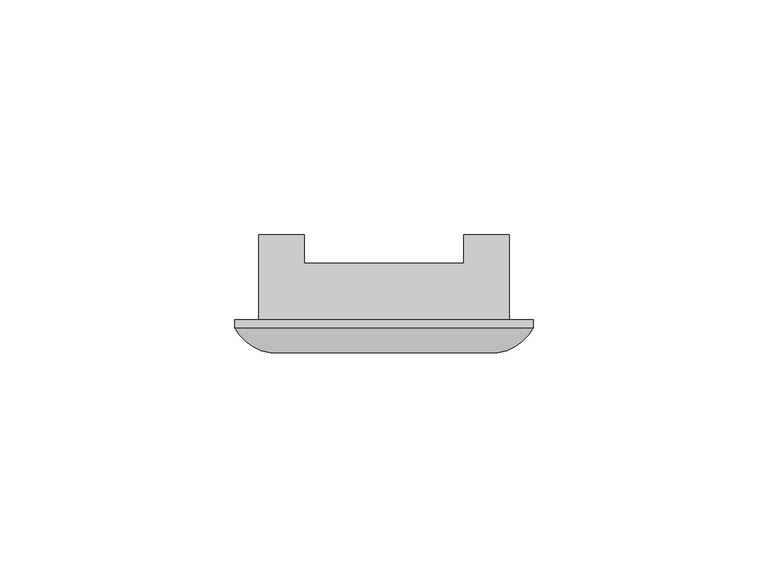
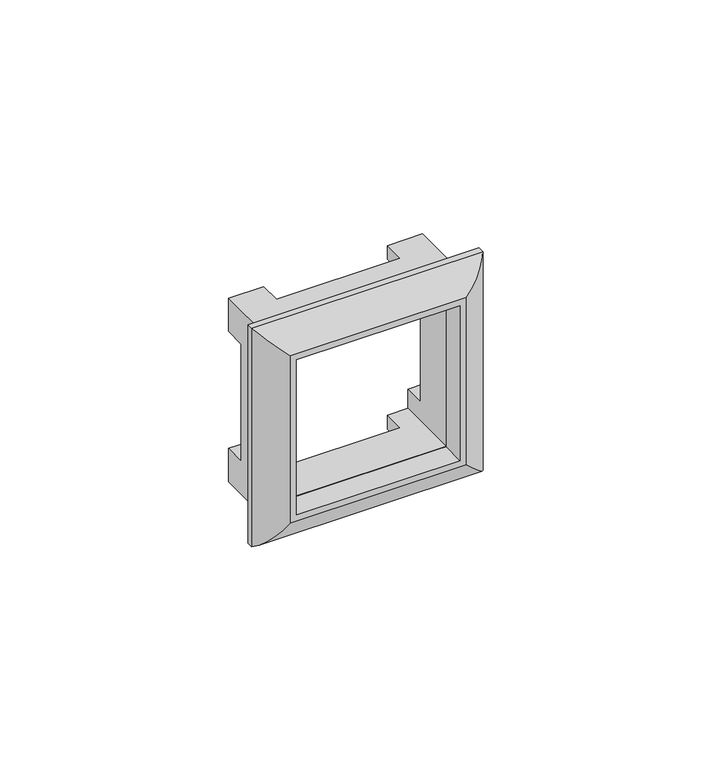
"""IFC4 building model written with IfcOpenShell, lengths in millimetres: proxy geometry."""

from ifc_helpers import new_model, si_unit, frame, origin, place, context, project, spatial, ellipse_curve, faceted_brep, source, transform, mapped, element, save
from ifc_brep_helpers import plane_surface, cylinder_surface, advanced_brep


def electrical_fixtures_6385b20a(model_context):
    return source(origin(), model_context, "Body", "SolidModel", [
        faceted_brep([(26.65, 18.1, -17.0), (26.65, 18.1, -26.65), (17.0, 18.1, -26.65), (17.0, 18.1, -22.65), (22.65, 18.1, -22.65), (22.65, 18.1, -17.0), (26.65, 18.1, 26.65), (26.65, 18.1, 17.0), (22.65, 18.1, 17.0), (22.65, 18.1, 22.65), (17.0, 18.1, 22.65), (17.0, 18.1, 26.65), (-26.65, 18.1, -26.65), (-26.65, 18.1, -17.0), (-22.65, 18.1, -17.0), (-22.65, 18.1, -22.65), (-17.0, 18.1, -22.65), (-17.0, 18.1, -26.65), (-26.65, 18.1, 17.0), (-26.65, 18.1, 26.65), (-17.0, 18.1, 26.65), (-17.0, 18.1, 22.65), (-22.65, 18.1, 22.65), (-22.65, 18.1, 17.0), (26.65, 0.0, -26.65), (26.65, 0.0, 26.65), (-26.65, 0.0, 26.65), (-26.65, 0.0, -26.65), (22.65, 0.0, -22.65), (-22.65, 0.0, -22.65), (-22.65, 0.0, 22.65), (22.65, 0.0, 22.65), (26.65, 12.0483806, -17.0), (26.65, 12.0483806, 17.0), (17.0, 12.0483806, 26.65), (-17.0, 12.0483806, 26.65), (-26.65, 12.0483806, 17.0), (-26.65, 12.0483806, -17.0), (-17.0, 12.0483806, -26.65), (17.0, 12.0483806, -26.65), (17.0, 12.0483806, -22.65), (-17.0, 12.0483806, -22.65), (-22.65, 12.0483806, -17.0), (-22.65, 12.0483806, 17.0), (-17.0, 12.0483806, 22.65), (17.0, 12.0483806, 22.65), (22.65, 12.0483806, 17.0), (22.65, 12.0483806, -17.0)], [[[0, 1, 2, 3, 4, 5]], [[6, 7, 8, 9, 10, 11]], [[12, 13, 14, 15, 16, 17]], [[18, 19, 20, 21, 22, 23]], [[24, 25, 26, 27], [28, 29, 30, 31]], [[25, 24, 1, 0, 32, 33, 7, 6]], [[26, 25, 6, 11, 34, 35, 20, 19]], [[27, 26, 19, 18, 36, 37, 13, 12]], [[24, 27, 12, 17, 38, 39, 2, 1]], [[29, 28, 4, 3, 40, 41, 16, 15]], [[30, 29, 15, 14, 42, 43, 23, 22]], [[31, 30, 22, 21, 44, 45, 10, 9]], [[28, 31, 9, 8, 46, 47, 5, 4]], [[37, 42, 14, 13]], [[47, 32, 0, 5]], [[43, 36, 18, 23]], [[33, 46, 8, 7]], [[42, 37, 36, 43]], [[32, 47, 46, 33]], [[41, 38, 17, 16]], [[35, 44, 21, 20]], [[39, 40, 3, 2]], [[45, 34, 11, 10]], [[40, 39, 38, 41]], [[34, 45, 44, 35]]]),
        advanced_brep(
        [(31.75, -1.7181284, -31.75), (31.75, 0.0, -31.75), (31.75, 0.0, 31.75), (31.75, -1.7181284, 31.75), (24.261743, -7.0, 24.261743), (24.261743, -7.0, -24.261743), (-31.75, 0.0, 31.75), (-31.75, -1.7181284, 31.75), (-24.261743, -7.0, 24.261743), (-31.75, 0.0, -31.75), (-31.75, -1.7181284, -31.75), (-24.261743, -7.0, -24.261743), (22.5, 0.0, -22.5), (22.5, 0.0, 22.5), (-22.5, 0.0, 22.5), (-22.5, 0.0, -22.5), (22.5, -7.0, 22.5), (22.5, -7.0, -22.5), (-22.5, -7.0, -22.5), (-22.5, -7.0, 22.5)],
        [
            (0, 1),
            (1, 2),
            (2, 3),
            (3, 0),
            (3, 4, ellipse_curve(frame((22.4870905, 3.4650658, 22.4870905), z_axis=(0.7071067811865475, 0.0, -0.7071067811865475), x_axis=(-0.7071067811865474, 0.0, -0.7071067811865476)), 15.0111288, 10.614471)),
            (4, 5),
            (5, 0, ellipse_curve(frame((22.4870905, 3.4650658, -22.4870905), z_axis=(0.7071067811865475, 0.0, 0.7071067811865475), x_axis=(0.7071067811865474, 0.0, -0.7071067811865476)), 15.0111288, 10.614471)),
            (2, 6),
            (6, 7),
            (7, 3),
            (7, 8, ellipse_curve(frame((-22.4870905, 3.4650658, 22.4870905), z_axis=(0.7071067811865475, 0.0, 0.7071067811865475), x_axis=(0.7071067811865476, 0.0, -0.7071067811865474)), 15.0111288, 10.614471)),
            (8, 4),
            (6, 9),
            (9, 10),
            (10, 7),
            (10, 11, ellipse_curve(frame((-22.4870905, 3.4650658, -22.4870905), z_axis=(-0.7071067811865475, 0.0, 0.7071067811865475), x_axis=(0.7071067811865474, 0.0, 0.7071067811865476)), 15.0111288, 10.614471)),
            (11, 8),
            (1, 9),
            (12, 13),
            (13, 14),
            (14, 15),
            (15, 12),
            (0, 10),
            (5, 11),
            (16, 17),
            (17, 18),
            (18, 19),
            (19, 16),
            (16, 13),
            (12, 17),
            (19, 14),
            (18, 15),
        ],
        [
            plane_surface(frame((31.75, 0.0, -31.75), z_axis=(1.0, 0.0, 0.0), x_axis=(0.0, 0.0, 1.0))),
            cylinder_surface(frame((22.4870905, 3.4650658, -31.75), z_axis=(0.0, 0.0, -1.0), x_axis=(-1.0, 0.0, 0.0)), 10.614471),
            plane_surface(frame((31.75, 0.0, 31.75), z_axis=(0.0, 0.0, 1.0), x_axis=(-1.0, 0.0, 0.0))),
            cylinder_surface(frame((31.75, 3.4650658, 22.4870905), z_axis=(1.0, 0.0, 0.0), x_axis=(0.0, 0.0, -1.0)), 10.614471),
            plane_surface(frame((-31.75, 0.0, 31.75), z_axis=(-1.0, 0.0, 0.0), x_axis=(0.0, 0.0, -1.0))),
            cylinder_surface(frame((-22.4870905, 3.4650658, 31.75), z_axis=(0.0, 0.0, 1.0), x_axis=(1.0, 0.0, 0.0)), 10.614471),
            plane_surface(frame((-6.0, 0.0, -6.0), z_axis=(0.0, 1.0, 0.0), x_axis=(1.0, 0.0, 0.0))),
            plane_surface(frame((-31.75, 0.0, -31.75), z_axis=(0.0, 0.0, -1.0), x_axis=(1.0, 0.0, 0.0))),
            cylinder_surface(frame((-31.75, 3.4650658, -22.4870905), z_axis=(-1.0, 0.0, 0.0), x_axis=(0.0, 0.0, 1.0)), 10.614471),
            plane_surface(frame((-24.261743, -7.0, -24.261743), z_axis=(0.0, -1.0, 0.0), x_axis=(1.0, 0.0, 0.0))),
            plane_surface(frame((22.5, -7.0, -22.5), z_axis=(-1.0, 0.0, 0.0), x_axis=(0.0, 1.0, 0.0))),
            plane_surface(frame((22.5, -7.0, 22.5), z_axis=(0.0, 0.0, -1.0), x_axis=(0.0, 1.0, 0.0))),
            plane_surface(frame((-22.5, -7.0, 22.5), z_axis=(1.0, 0.0, 0.0), x_axis=(0.0, 1.0, 0.0))),
            plane_surface(frame((-22.5, -7.0, -22.5), z_axis=(0.0, 0.0, 1.0), x_axis=(0.0, 1.0, 0.0))),
        ],
        [
            (0, [[1, 2, 3, 4]]),
            (1, [[-4, 5, 6, 7]]),
            (2, [[-3, 8, 9, 10]]),
            (3, [[-5, -10, 11, 12]]),
            (4, [[-9, 13, 14, 15]]),
            (5, [[-11, -15, 16, 17]]),
            (6, [[-2, 18, -13, -8], [19, 20, 21, 22]]),
            (7, [[-1, 23, -14, -18]]),
            (8, [[-7, 24, -16, -23]]),
            (9, [[-6, -12, -17, -24], [25, 26, 27, 28]]),
            (10, [[29, -19, 30, -25]]),
            (11, [[-29, -28, 31, -20]]),
            (12, [[-31, -27, 32, -21]]),
            (13, [[-30, -22, -32, -26]]),
        ],
    ),
    ])


if __name__ == "__main__":
    model = new_model("IFC4")
    model_context = context("Model", 3, world=origin())
    ifc_project = project(units=[si_unit("LENGTHUNIT", "METRE", prefix="MILLI")], contexts=[model_context])
    site = spatial("IfcSite", under=ifc_project)
    building = spatial("IfcBuilding", under=site)
    placement = place(None, origin())
    electrical_fixtures_shape = electrical_fixtures_6385b20a(model_context)
    element("IfcBuildingElementProxy", 1, Name="Electrical Fixtures", at=placement, inside=building, context=model_context, shape_type="MappedRepresentation", body=[
        mapped(electrical_fixtures_shape, transform((0.0, 0.0, 0.0), x_axis=(1.0, 0.0, 0.0), y_axis=(0.0, 1.0, 0.0), z_axis=(0.0, 0.0, 1.0))),
    ])
    save(model, "model.ifc")
